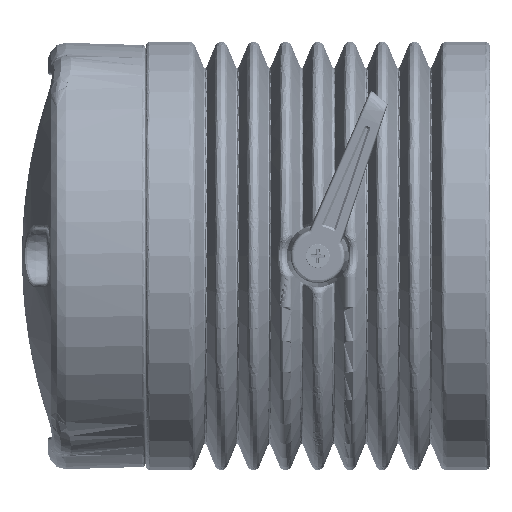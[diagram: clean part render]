
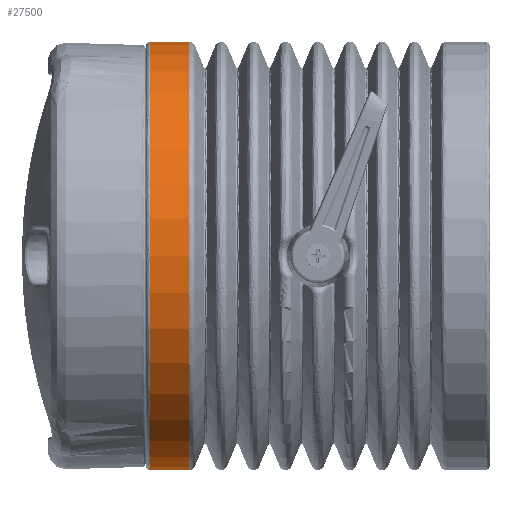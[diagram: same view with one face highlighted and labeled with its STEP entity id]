
A CAD part, left-side view. The second image highlights one B-rep face of the part: STEP entity #27500.
In plain terms, the highlighted cylindrical face has radius 66.5 mm (diameter 133 mm), a partial arc.
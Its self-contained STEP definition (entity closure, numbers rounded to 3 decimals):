
#243 = CARTESIAN_POINT ( 'NONE',  ( 43.946, 55.874, 229.368 ) ) ;
#478 = CYLINDRICAL_SURFACE ( 'NONE', #241501, 66.5 ) ;
#4905 = DIRECTION ( 'NONE',  ( 0., 0., -1. ) ) ;
#6246 = VECTOR ( 'NONE', #11070, 1000. ) ;
#7265 = FACE_OUTER_BOUND ( 'NONE', #214722, .T. ) ;
#11070 = DIRECTION ( 'NONE',  ( 0., -1., 0. ) ) ;
#14290 = CIRCLE ( 'NONE', #87603, 66.5 ) ;
#16665 = VERTEX_POINT ( 'NONE', #217905 ) ;
#27500 = ADVANCED_FACE ( 'NONE', ( #7265 ), #478, .T. ) ;
#33139 = DIRECTION ( 'NONE',  ( 1., 0., 0. ) ) ;
#36663 = VERTEX_POINT ( 'NONE', #89086 ) ;
#48441 = CARTESIAN_POINT ( 'NONE',  ( 43.946, 55.874, 162.868 ) ) ;
#55563 = ORIENTED_EDGE ( 'NONE', *, *, #266977, .F. ) ;
#57477 = CARTESIAN_POINT ( 'NONE',  ( 43.946, 43.874, 96.368 ) ) ;
#68181 = ORIENTED_EDGE ( 'NONE', *, *, #273450, .T. ) ;
#76822 = DIRECTION ( 'NONE',  ( 0., -1., 0. ) ) ;
#80466 = DIRECTION ( 'NONE',  ( 0., -1., 0. ) ) ;
#87603 = AXIS2_PLACEMENT_3D ( 'NONE', #101341, #76822, #33139 ) ;
#89086 = CARTESIAN_POINT ( 'NONE',  ( 43.946, 43.874, 229.368 ) ) ;
#89255 = DIRECTION ( 'NONE',  ( 0., 1., 0. ) ) ;
#101341 = CARTESIAN_POINT ( 'NONE',  ( 43.946, 43.874, 162.868 ) ) ;
#137546 = ORIENTED_EDGE ( 'NONE', *, *, #195771, .F. ) ;
#161781 = CARTESIAN_POINT ( 'NONE',  ( 43.946, 55.874, 229.368 ) ) ;
#167244 = VERTEX_POINT ( 'NONE', #57477 ) ;
#172953 = ORIENTED_EDGE ( 'NONE', *, *, #225628, .F. ) ;
#195771 = EDGE_CURVE ( 'NONE', #16665, #245237, #249272, .T. ) ;
#198743 = CARTESIAN_POINT ( 'NONE',  ( 43.946, 55.874, 96.368 ) ) ;
#209435 = CARTESIAN_POINT ( 'NONE',  ( 43.946, 55.874, 162.868 ) ) ;
#214722 = EDGE_LOOP ( 'NONE', ( #172953, #137546, #68181, #55563 ) ) ;
#217905 = CARTESIAN_POINT ( 'NONE',  ( 43.946, 55.874, 96.368 ) ) ;
#225628 = EDGE_CURVE ( 'NONE', #245237, #36663, #240522, .T. ) ;
#231086 = AXIS2_PLACEMENT_3D ( 'NONE', #48441, #89255, #4905 ) ;
#240522 = LINE ( 'NONE', #161781, #6246 ) ;
#241501 = AXIS2_PLACEMENT_3D ( 'NONE', #209435, #80466, #280499 ) ;
#245237 = VERTEX_POINT ( 'NONE', #243 ) ;
#249272 = CIRCLE ( 'NONE', #231086, 66.5 ) ;
#265786 = VECTOR ( 'NONE', #267022, 1000. ) ;
#266977 = EDGE_CURVE ( 'NONE', #36663, #167244, #14290, .T. ) ;
#267022 = DIRECTION ( 'NONE',  ( 0., -1., 0. ) ) ;
#273450 = EDGE_CURVE ( 'NONE', #16665, #167244, #279427, .T. ) ;
#279427 = LINE ( 'NONE', #198743, #265786 ) ;
#280499 = DIRECTION ( 'NONE',  ( 0., 0., -1. ) ) ;
